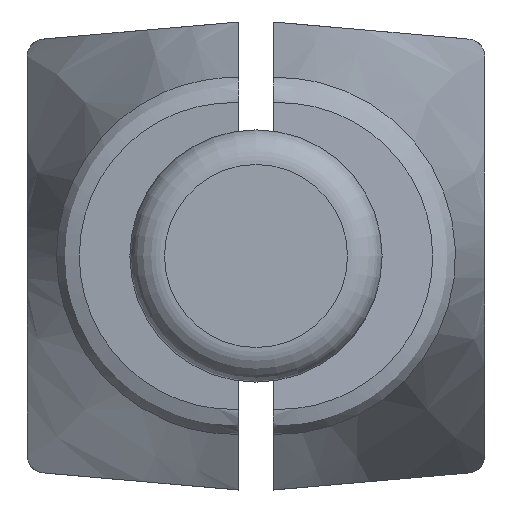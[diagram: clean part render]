
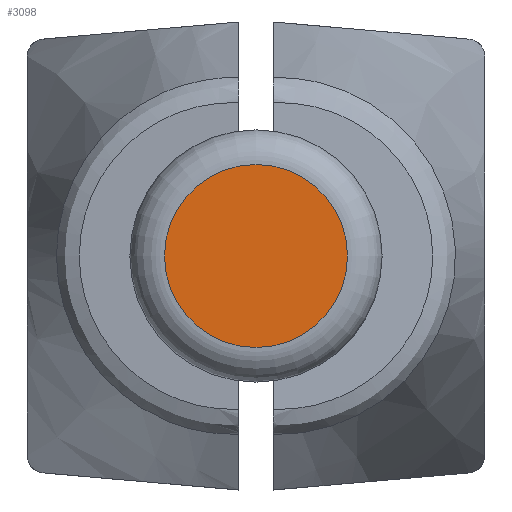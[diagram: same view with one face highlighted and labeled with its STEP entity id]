
A CAD part, left-side view. The second image highlights one B-rep face of the part: STEP entity #3098.
In plain terms, the highlighted planar face has unit normal (-1, 0, 0).
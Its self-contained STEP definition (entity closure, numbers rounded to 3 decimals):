
#16 = CIRCLE ( 'NONE', #2013, 5.279 ) ;
#287 = ORIENTED_EDGE ( 'NONE', *, *, #4079, .T. ) ;
#1396 = FACE_OUTER_BOUND ( 'NONE', #4524, .T. ) ;
#1612 = DIRECTION ( 'NONE',  ( 0., 0., 1. ) ) ;
#1763 = VERTEX_POINT ( 'NONE', #2122 ) ;
#2013 = AXIS2_PLACEMENT_3D ( 'NONE', #2035, #2962, #1612 ) ;
#2035 = CARTESIAN_POINT ( 'NONE',  ( -99.3, -1., 0. ) ) ;
#2122 = CARTESIAN_POINT ( 'NONE',  ( -99.3, -1., 5.279 ) ) ;
#2197 = AXIS2_PLACEMENT_3D ( 'NONE', #4229, #3754, #4208 ) ;
#2833 = PLANE ( 'NONE',  #2197 ) ;
#2962 = DIRECTION ( 'NONE',  ( -1., 0., 0. ) ) ;
#3098 = ADVANCED_FACE ( 'NONE', ( #1396 ), #2833, .F. ) ;
#3754 = DIRECTION ( 'NONE',  ( 1., 0., 0. ) ) ;
#4079 = EDGE_CURVE ( 'NONE', #1763, #1763, #16, .T. ) ;
#4208 = DIRECTION ( 'NONE',  ( 0., 0., -1. ) ) ;
#4229 = CARTESIAN_POINT ( 'NONE',  ( -99.3, 4.279, 0. ) ) ;
#4524 = EDGE_LOOP ( 'NONE', ( #287 ) ) ;
